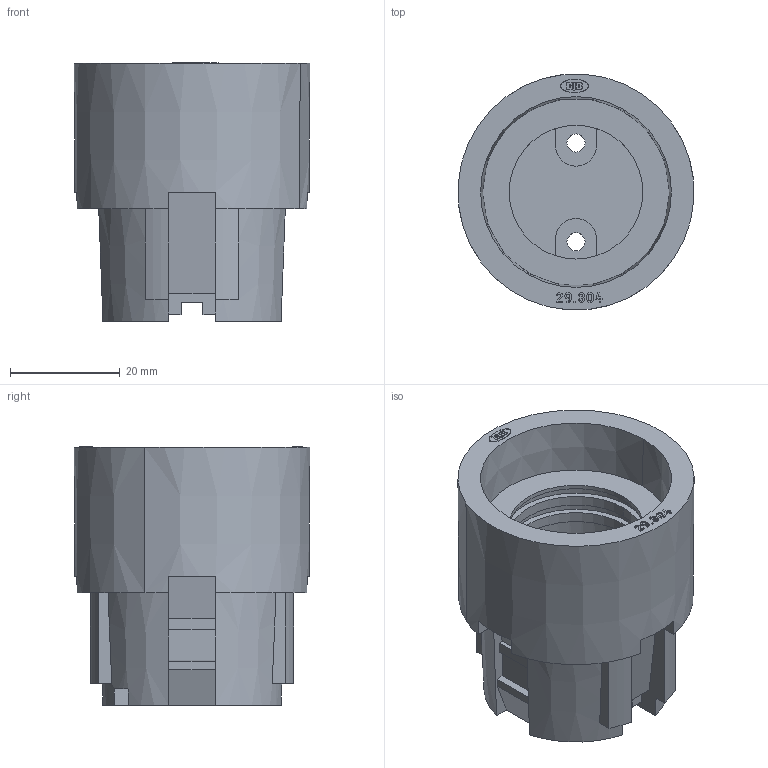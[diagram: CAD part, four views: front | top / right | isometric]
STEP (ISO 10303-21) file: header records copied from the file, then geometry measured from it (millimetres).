
FILE_DESCRIPTION(('Surface Model. B-Spline boundary curves.'),'1');
FILE_NAME('C:\Programme\CORETECH\in\29_304_3512.step','2001-12-13 T',(' '),(' '),'STEP Interface v190.0 by CORETECH International','TRANS-3D v190.0 by CORETECH International',' ');
FILE_SCHEMA(('CONFIG_CONTROL_DESIGN'));
Length unit declared in the file: millimetre
Products named in the file (1): 29_304_3512
Bounding box: 42.91 x 42.91 x 47.1 mm (x, y, z)
Volume: 34070.4 mm3; surface area: 13403.7 mm2
Topology: 1 solids, 1 shells, 396 faces, 1075 edges, 706 vertices
Faces by surface type: plane 340, cylinder 36, bspline 12, cone 8
Entity records: 12523 total; most frequent: CARTESIAN_POINT 2486, ORIENTED_EDGE 2150, DIRECTION 1933, EDGE_CURVE 1075, VECTOR 939, LINE 939, VERTEX_POINT 706, AXIS2_PLACEMENT_3D 497
